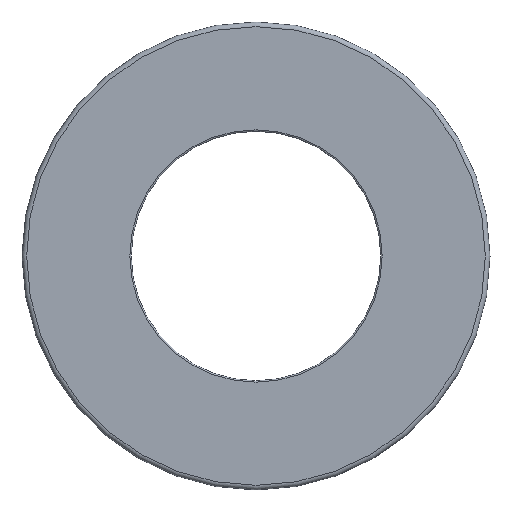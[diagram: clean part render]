
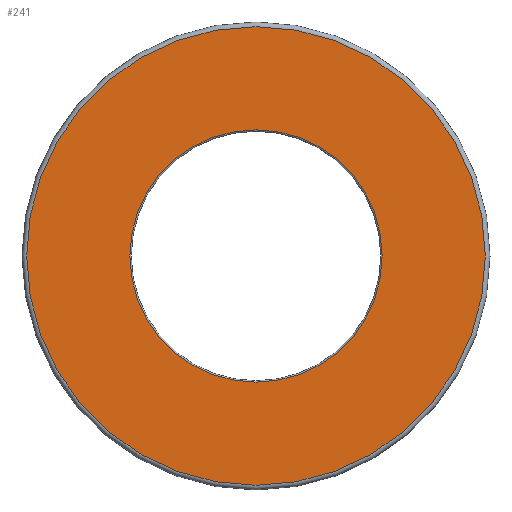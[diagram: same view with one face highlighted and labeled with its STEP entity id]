
A CAD part, left-side view. The second image highlights one B-rep face of the part: STEP entity #241.
In plain terms, the highlighted planar face has unit normal (-1, 0, 0).
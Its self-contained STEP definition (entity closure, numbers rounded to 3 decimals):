
#20=FACE_BOUND('',#67,.T.);
#24=PLANE('',#292);
#49=FACE_OUTER_BOUND('',#66,.T.);
#66=EDGE_LOOP('',(#186));
#67=EDGE_LOOP('',(#187));
#89=CIRCLE('',#288,14.7);
#92=CIRCLE('',#293,8.088);
#114=VERTEX_POINT('',#434);
#117=VERTEX_POINT('',#444);
#139=EDGE_CURVE('',#114,#114,#89,.T.);
#143=EDGE_CURVE('',#117,#117,#92,.T.);
#186=ORIENTED_EDGE('',*,*,#139,.F.);
#187=ORIENTED_EDGE('',*,*,#143,.T.);
#241=ADVANCED_FACE('',(#49,#20),#24,.T.);
#288=AXIS2_PLACEMENT_3D('',#436,#347,#348);
#292=AXIS2_PLACEMENT_3D('',#443,#356,#357);
#293=AXIS2_PLACEMENT_3D('',#445,#358,#359);
#347=DIRECTION('center_axis',(1.,0.,0.));
#348=DIRECTION('ref_axis',(0.,-1.,0.));
#356=DIRECTION('center_axis',(-1.,0.,0.));
#357=DIRECTION('ref_axis',(0.,0.,1.));
#358=DIRECTION('center_axis',(1.,0.,0.));
#359=DIRECTION('ref_axis',(0.,1.,0.));
#434=CARTESIAN_POINT('',(0.,0.,14.7));
#436=CARTESIAN_POINT('Origin',(0.,0.,
0.));
#443=CARTESIAN_POINT('Origin',(0.,11.544,0.));
#444=CARTESIAN_POINT('',(0.,0.,8.088));
#445=CARTESIAN_POINT('Origin',(0.,0.,
0.));
